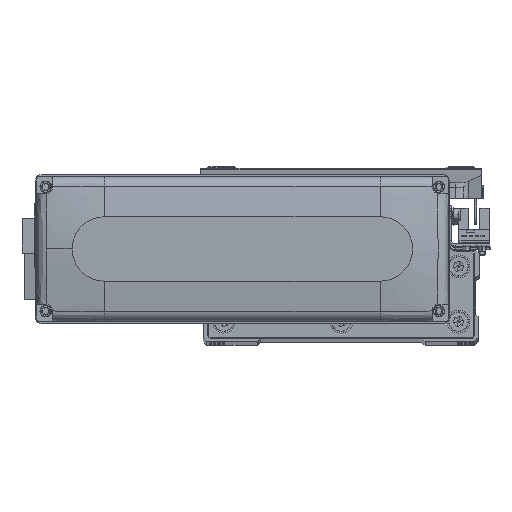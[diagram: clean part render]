
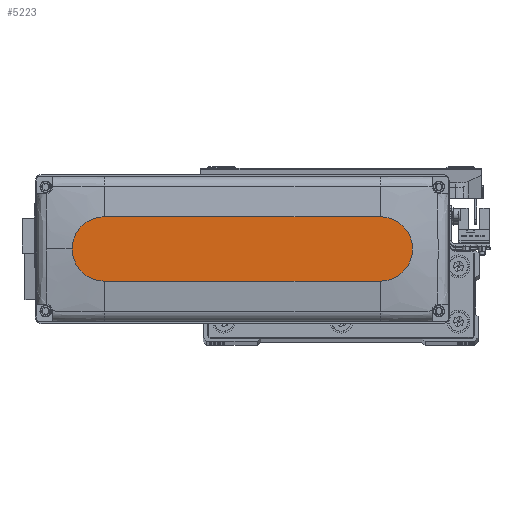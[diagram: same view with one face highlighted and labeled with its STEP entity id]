
A CAD part, top view. The second image highlights one B-rep face of the part: STEP entity #5223.
In plain terms, the highlighted planar face has unit normal (0, 0, 1).
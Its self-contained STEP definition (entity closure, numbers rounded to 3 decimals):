
#506 = CARTESIAN_POINT ( 'NONE',  ( -60., 0., 28.5 ) ) ;
#1160 = DIRECTION ( 'NONE',  ( 0., 0., 1. ) ) ;
#1252 = CARTESIAN_POINT ( 'NONE',  ( 60., -14., 28.5 ) ) ;
#1260 = CARTESIAN_POINT ( 'NONE',  ( 60., 0., 28.5 ) ) ;
#3298 = VECTOR ( 'NONE', #19151, 1000. ) ;
#4566 = CARTESIAN_POINT ( 'NONE',  ( -60., -14., 28.5 ) ) ;
#4949 = CARTESIAN_POINT ( 'NONE',  ( 74., 0., 28.5 ) ) ;
#5223 = ADVANCED_FACE ( 'NONE', ( #8350 ), #19332, .T. ) ;
#8030 = VECTOR ( 'NONE', #26206, 1000. ) ;
#8350 = FACE_OUTER_BOUND ( 'NONE', #31801, .T. ) ;
#9195 = CARTESIAN_POINT ( 'NONE',  ( -60., 14., 28.5 ) ) ;
#9530 = AXIS2_PLACEMENT_3D ( 'NONE', #506, #15103, #29694 ) ;
#10122 = CIRCLE ( 'NONE', #36858, 14. ) ;
#11627 = CARTESIAN_POINT ( 'NONE',  ( -60., 14., 28.5 ) ) ;
#12976 = DIRECTION ( 'NONE',  ( 0., 0., 1. ) ) ;
#14764 = ORIENTED_EDGE ( 'NONE', *, *, #45053, .T. ) ;
#15103 = DIRECTION ( 'NONE',  ( 0., 0., 1. ) ) ;
#15773 = DIRECTION ( 'NONE',  ( 1., 0., 0. ) ) ;
#15867 = DIRECTION ( 'NONE',  ( 0., 0., 1. ) ) ;
#17398 = ORIENTED_EDGE ( 'NONE', *, *, #29298, .T. ) ;
#19151 = DIRECTION ( 'NONE',  ( 1., 0., 0. ) ) ;
#19332 = PLANE ( 'NONE',  #47125 ) ;
#20601 = CARTESIAN_POINT ( 'NONE',  ( -60., -14., 28.5 ) ) ;
#24999 = VERTEX_POINT ( 'NONE', #1252 ) ;
#25085 = EDGE_CURVE ( 'NONE', #24999, #32647, #30075, .T. ) ;
#26206 = DIRECTION ( 'NONE',  ( -1., 0., 0. ) ) ;
#27549 = DIRECTION ( 'NONE',  ( 1., 0., 0. ) ) ;
#29298 = EDGE_CURVE ( 'NONE', #32647, #37518, #10122, .T. ) ;
#29694 = DIRECTION ( 'NONE',  ( 1., 0., 0. ) ) ;
#30075 = CIRCLE ( 'NONE', #36192, 14. ) ;
#30146 = CIRCLE ( 'NONE', #9530, 14. ) ;
#30464 = DIRECTION ( 'NONE',  ( 1., 0., 0. ) ) ;
#31801 = EDGE_LOOP ( 'NONE', ( #39485, #40038, #14764, #33082, #17398 ) ) ;
#32509 = CARTESIAN_POINT ( 'NONE',  ( 60., 14., 28.5 ) ) ;
#32647 = VERTEX_POINT ( 'NONE', #4949 ) ;
#33082 = ORIENTED_EDGE ( 'NONE', *, *, #25085, .T. ) ;
#33941 = CARTESIAN_POINT ( 'NONE',  ( 0., 0., 28.5 ) ) ;
#35934 = EDGE_CURVE ( 'NONE', #42712, #46557, #30146, .T. ) ;
#36192 = AXIS2_PLACEMENT_3D ( 'NONE', #45772, #12976, #27549 ) ;
#36858 = AXIS2_PLACEMENT_3D ( 'NONE', #1260, #15867, #30464 ) ;
#37370 = LINE ( 'NONE', #4566, #3298 ) ;
#37518 = VERTEX_POINT ( 'NONE', #32509 ) ;
#39485 = ORIENTED_EDGE ( 'NONE', *, *, #44153, .T. ) ;
#40038 = ORIENTED_EDGE ( 'NONE', *, *, #35934, .T. ) ;
#42712 = VERTEX_POINT ( 'NONE', #9195 ) ;
#44153 = EDGE_CURVE ( 'NONE', #37518, #42712, #44415, .T. ) ;
#44415 = LINE ( 'NONE', #11627, #8030 ) ;
#45053 = EDGE_CURVE ( 'NONE', #46557, #24999, #37370, .T. ) ;
#45772 = CARTESIAN_POINT ( 'NONE',  ( 60., 0., 28.5 ) ) ;
#46557 = VERTEX_POINT ( 'NONE', #20601 ) ;
#47125 = AXIS2_PLACEMENT_3D ( 'NONE', #33941, #1160, #15773 ) ;
